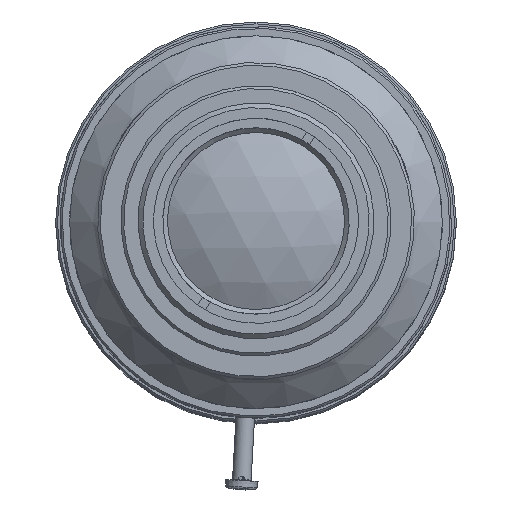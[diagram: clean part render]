
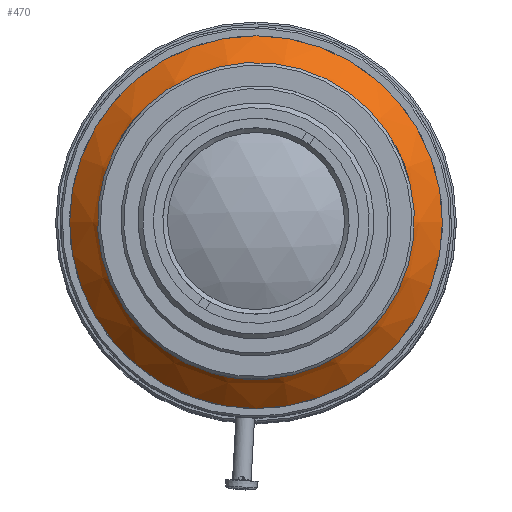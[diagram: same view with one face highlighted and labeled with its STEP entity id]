
A CAD part, top view. The second image highlights one B-rep face of the part: STEP entity #470.
In plain terms, the highlighted conical face has half-angle 45 degrees and reference radius 20 mm.
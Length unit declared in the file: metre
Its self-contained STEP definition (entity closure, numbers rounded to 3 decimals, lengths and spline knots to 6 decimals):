
#470=ADVANCED_FACE('NONE',(#1276,#1277),#1278,.T.);
#1276=FACE_OUTER_BOUND('',#2580,.T.);
#1277=FACE_BOUND('',#2581,.T.);
#1278=CONICAL_SURFACE('',#2582,0.02,0.785);
#2580=EDGE_LOOP('',(#6088));
#2581=EDGE_LOOP('',(#6089));
#2582=AXIS2_PLACEMENT_3D('',#6090,#6091,#6092);
#6088=ORIENTED_EDGE('',*,*,#8561,.F.);
#6089=ORIENTED_EDGE('',*,*,#8555,.T.);
#6090=CARTESIAN_POINT('',(0.000235,0.001945,0.02685));
#6091=DIRECTION('',(0.,-0.0,-1.0));
#6092=DIRECTION('',(-1.0,0.0,0.));
#8555=EDGE_CURVE('NONE',#9619,#9619,#9620,.T.);
#8561=EDGE_CURVE('NONE',#9629,#9629,#9630,.T.);
#9619=VERTEX_POINT('',#11198);
#9620=CIRCLE('',#11199,0.015);
#9629=VERTEX_POINT('',#11208);
#9630=CIRCLE('',#11209,0.02);
#11198=CARTESIAN_POINT('',(-0.014765,0.001945,0.03185));
#11199=AXIS2_PLACEMENT_3D('',#14600,#14601,#14602);
#11208=CARTESIAN_POINT('',(-0.019765,0.001945,0.02685));
#11209=AXIS2_PLACEMENT_3D('',#14612,#14613,#14614);
#14600=CARTESIAN_POINT('',(0.000235,0.001945,0.03185));
#14601=DIRECTION('',(0.,0.0,-1.0));
#14602=DIRECTION('',(-1.0,0.0,0.));
#14612=CARTESIAN_POINT('',(0.000235,0.001945,0.02685));
#14613=DIRECTION('',(0.,0.0,-1.0));
#14614=DIRECTION('',(-1.0,0.0,0.));
